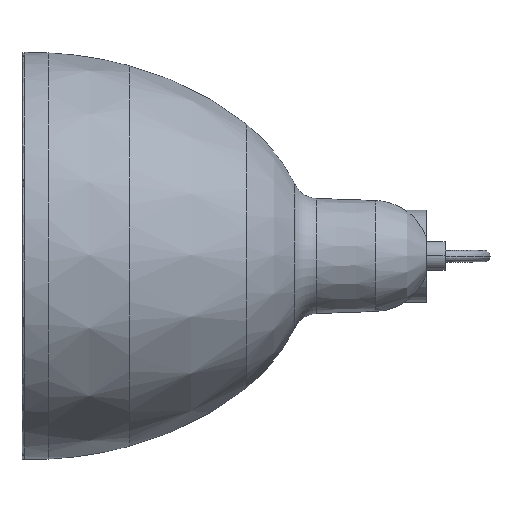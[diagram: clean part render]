
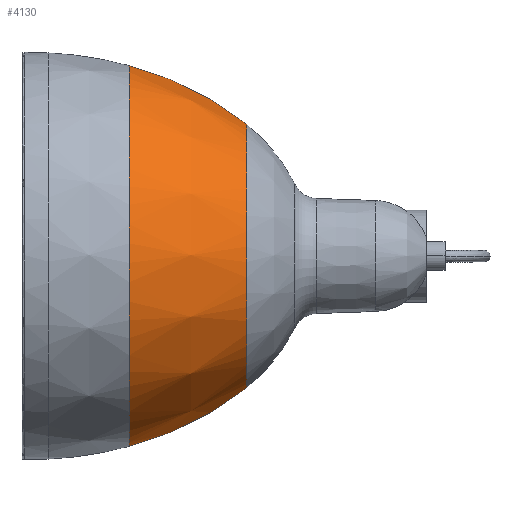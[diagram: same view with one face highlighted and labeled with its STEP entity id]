
A CAD part, top view. The second image highlights one B-rep face of the part: STEP entity #4130.
In plain terms, the highlighted free-form (B-spline) face has degree [2, 2] with [3, 5] control points.
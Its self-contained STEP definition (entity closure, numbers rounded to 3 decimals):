
#846=FACE_OUTER_BOUND('',#1120,.T.);
#1120=EDGE_LOOP('',(#3245,#3246,#3247,#3248));
#1403=B_SPLINE_CURVE_WITH_KNOTS('',3,(#8189,#8190,#8191,#8192,#8193,#8194,
#8195,#8196,#8197,#8198,#8199,#8200),.UNSPECIFIED.,.F.,.F.,(4,1,1,1,1,1,
1,1,1,4),(0.,0.111,0.222,0.333,0.444,
0.556,0.667,0.778,0.889,
1.),.UNSPECIFIED.);
#1455=B_SPLINE_CURVE_WITH_KNOTS('',3,(#9128,#9129,#9130,#9131,#9132,#9133,
#9134,#9135,#9136,#9137,#9138),.UNSPECIFIED.,.F.,.F.,(4,1,1,1,1,1,1,1,4),
(0.,0.125,0.25,0.375,0.5,0.625,0.75,0.875,1.),.UNSPECIFIED.);
#1567=CIRCLE('',#4430,155.203);
#1568=CIRCLE('',#4431,155.203);
#1822=VERTEX_POINT('',#8128);
#1823=VERTEX_POINT('',#8155);
#1865=VERTEX_POINT('',#9085);
#1866=VERTEX_POINT('',#9104);
#2266=EDGE_CURVE('',#1823,#1822,#1403,.T.);
#2346=EDGE_CURVE('',#1822,#1865,#1567,.T.);
#2348=EDGE_CURVE('',#1866,#1823,#1568,.T.);
#2350=EDGE_CURVE('',#1866,#1865,#1455,.T.);
#3245=ORIENTED_EDGE('',*,*,#2350,.F.);
#3246=ORIENTED_EDGE('',*,*,#2348,.T.);
#3247=ORIENTED_EDGE('',*,*,#2266,.T.);
#3248=ORIENTED_EDGE('',*,*,#2346,.T.);
#4008=(
BOUNDED_SURFACE()
B_SPLINE_SURFACE(2,2,((#9113,#9114,#9115,#9116,#9117),(#9118,#9119,#9120,
#9121,#9122),(#9123,#9124,#9125,#9126,#9127)),.UNSPECIFIED.,.F.,.F.,.F.)
B_SPLINE_SURFACE_WITH_KNOTS((3,3),(3,2,3),(-0.669,-0.255),
(-1.571,0.,1.571),.UNSPECIFIED.)
GEOMETRIC_REPRESENTATION_ITEM()
RATIONAL_B_SPLINE_SURFACE(((1.,0.707,1.,0.707,1.),
(0.979,0.692,0.979,0.692,
0.979),(1.,0.707,1.,0.707,1.)))
REPRESENTATION_ITEM('')
SURFACE()
);
#4130=ADVANCED_FACE('',(#846),#4008,.F.);
#4430=AXIS2_PLACEMENT_3D('',#9086,#5013,#5014);
#4431=AXIS2_PLACEMENT_3D('',#9105,#5015,#5016);
#5013=DIRECTION('center_axis',(-0.003,0.,
1.));
#5014=DIRECTION('ref_axis',(1.,0.,0.003));
#5015=DIRECTION('center_axis',(-0.003,0.,
1.));
#5016=DIRECTION('ref_axis',(-1.,0.,-0.003));
#8128=CARTESIAN_POINT('',(92.481,-110.7,118.622));
#8155=CARTESIAN_POINT('',(-92.495,-110.7,117.981));
#8189=CARTESIAN_POINT('Ctrl Pts',(-92.495,-110.7,117.981));
#8190=CARTESIAN_POINT('Ctrl Pts',(-92.61,-110.7,128.769));
#8191=CARTESIAN_POINT('Ctrl Pts',(-88.777,-110.7,150.263));
#8192=CARTESIAN_POINT('Ctrl Pts',(-72.531,-110.7,178.724));
#8193=CARTESIAN_POINT('Ctrl Pts',(-47.481,-110.7,199.877));
#8194=CARTESIAN_POINT('Ctrl Pts',(-16.72,-110.7,211.197));
#8195=CARTESIAN_POINT('Ctrl Pts',(16.061,-110.7,211.31));
#8196=CARTESIAN_POINT('Ctrl Pts',(46.9,-110.7,200.205));
#8197=CARTESIAN_POINT('Ctrl Pts',(72.096,-110.7,179.226));
#8198=CARTESIAN_POINT('Ctrl Pts',(88.539,-110.7,150.878));
#8199=CARTESIAN_POINT('Ctrl Pts',(92.521,-110.7,129.411));
#8200=CARTESIAN_POINT('Ctrl Pts',(92.481,-110.7,118.622));
#9085=CARTESIAN_POINT('',(64.073,-53.635,118.524));
#9086=CARTESIAN_POINT('Origin',(-57.7,-149.86,118.101));
#9104=CARTESIAN_POINT('',(-64.088,-53.635,118.079));
#9105=CARTESIAN_POINT('Origin',(57.685,-149.86,118.502));
#9113=CARTESIAN_POINT('Ctrl Pts',(64.066,-53.625,118.524));
#9114=CARTESIAN_POINT('Ctrl Pts',(63.843,-53.625,182.597));
#9115=CARTESIAN_POINT('Ctrl Pts',(-0.229,-53.625,
182.374));
#9116=CARTESIAN_POINT('Ctrl Pts',(-64.302,-53.625,182.152));
#9117=CARTESIAN_POINT('Ctrl Pts',(-64.08,-53.625,118.079));
#9118=CARTESIAN_POINT('Ctrl Pts',(84.269,-79.189,118.594));
#9119=CARTESIAN_POINT('Ctrl Pts',(83.977,-79.189,202.87));
#9120=CARTESIAN_POINT('Ctrl Pts',(-0.299,-79.189,
202.578));
#9121=CARTESIAN_POINT('Ctrl Pts',(-84.575,-79.189,202.285));
#9122=CARTESIAN_POINT('Ctrl Pts',(-84.283,-79.189,118.009));
#9123=CARTESIAN_POINT('Ctrl Pts',(92.486,-110.719,118.622));
#9124=CARTESIAN_POINT('Ctrl Pts',(92.165,-110.719,211.115));
#9125=CARTESIAN_POINT('Ctrl Pts',(-0.328,-110.719,
210.795));
#9126=CARTESIAN_POINT('Ctrl Pts',(-92.821,-110.719,210.474));
#9127=CARTESIAN_POINT('Ctrl Pts',(-92.5,-110.719,117.981));
#9128=CARTESIAN_POINT('Ctrl Pts',(-64.088,-53.635,118.079));
#9129=CARTESIAN_POINT('Ctrl Pts',(-64.201,-53.635,126.501));
#9130=CARTESIAN_POINT('Ctrl Pts',(-60.799,-53.635,143.236));
#9131=CARTESIAN_POINT('Ctrl Pts',(-46.67,-53.635,164.636));
#9132=CARTESIAN_POINT('Ctrl Pts',(-25.376,-53.635,178.957));
#9133=CARTESIAN_POINT('Ctrl Pts',(-0.235,-53.635,
184.051));
#9134=CARTESIAN_POINT('Ctrl Pts',(24.941,-53.635,179.131));
#9135=CARTESIAN_POINT('Ctrl Pts',(46.333,-53.635,164.958));
#9136=CARTESIAN_POINT('Ctrl Pts',(60.61,-53.635,143.657));
#9137=CARTESIAN_POINT('Ctrl Pts',(64.128,-53.635,126.946));
#9138=CARTESIAN_POINT('Ctrl Pts',(64.073,-53.635,118.524));
